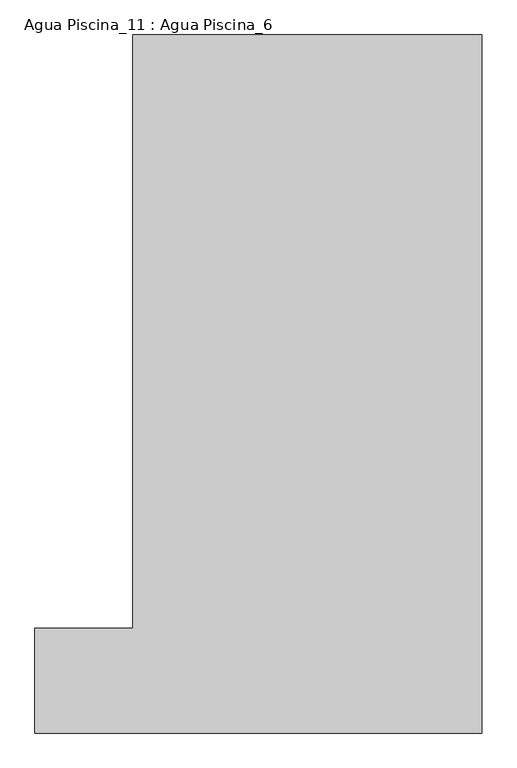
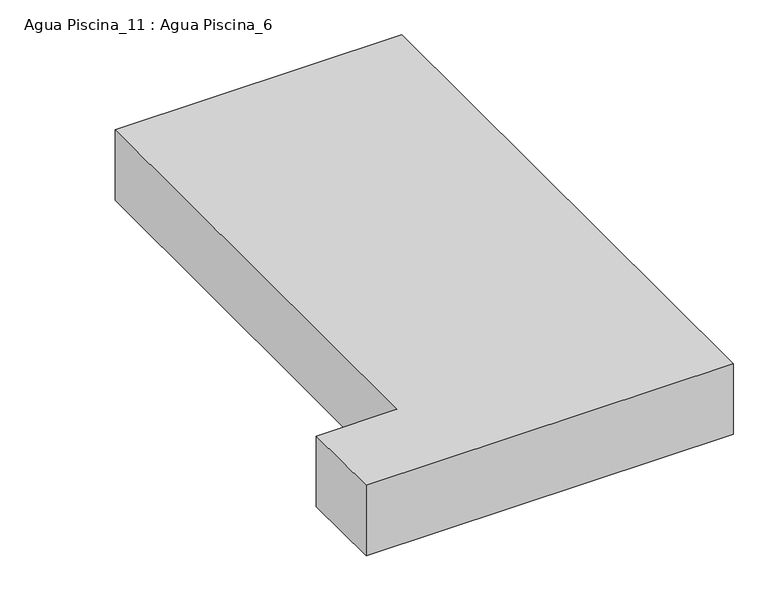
"""IFC4 building model written with IfcOpenShell, lengths in millimetres: proxy geometry, Agua Piscina_11 : Agua Piscina_6."""

import ifcopenshell
import ifcopenshell.guid

model = None  # the IFC model being written
_history = None  # IfcOwnerHistory: only IFC2X3 demands one
_inside = {}  # id of a spatial element -> (the spatial element, [elements in it])
_under = {}  # id of a project, library or spatial element -> (it, [spatial elements below it])
_declared = {}  # id of a project -> (the project, [libraries it declares])
_typed = {}  # id of a type object -> (the type object, [elements of that type])
_made_of = {}  # id of a material, layer set ... -> (it, [elements and type objects made of it])


def new_model(schema):
    """Start an empty IFC model of exactly this schema.

    Asked for "IFC4X3", IfcOpenShell would pick the latest addendum, in which some entities
    have other attributes; the version numbers below select the first issue.
    IFC2X3 requires an IfcOwnerHistory on every rooted entity: one is made here for all.
    """
    global model, _history
    if schema == "IFC4X3":
        model = ifcopenshell.file(schema_version=(4, 3, 0, 0))
    else:
        model = ifcopenshell.file(schema=schema)
    _inside.clear()
    _under.clear()
    _declared.clear()
    _typed.clear()
    _made_of.clear()
    _history = None
    if model.schema == "IFC2X3":
        org = make("IfcOrganization", Name="unknown")
        user = make(
            "IfcPersonAndOrganization",
            ThePerson=make("IfcPerson", FamilyName="unknown"),
            TheOrganization=org,
        )
        app = make(
            "IfcApplication",
            ApplicationDeveloper=org,
            Version="unknown",
            ApplicationFullName="unknown",
            ApplicationIdentifier="unknown",
        )
        _history = make(
            "IfcOwnerHistory",
            OwningUser=user,
            OwningApplication=app,
            ChangeAction="ADDED",
            CreationDate=0,
        )
    return model


def make(cls, **values):
    """One entity of the class cls with the attributes given. An attribute that is None is left unset."""
    return model.create_entity(
        cls, **{name: value for name, value in values.items() if value is not None}
    )


def rooted(cls, **values):
    """An entity with a GlobalId (a new one), such as an element, a storey or a relation."""
    return make(cls, GlobalId=ifcopenshell.guid.new(), OwnerHistory=_history, **values)


def si_unit(unit_type, name, prefix=None):
    """IfcSIUnit, for example si_unit("LENGTHUNIT", "METRE", prefix="MILLI")."""
    return make("IfcSIUnit", UnitType=unit_type, Prefix=prefix, Name=name)


def assignment(units):
    """IfcUnitAssignment: the units of a project."""
    return None if units is None else make("IfcUnitAssignment", Units=units)


def point(xyz):
    """IfcCartesianPoint."""
    return None if xyz is None else make("IfcCartesianPoint", Coordinates=xyz)


def direction(xyz):
    """IfcDirection."""
    return None if xyz is None else make("IfcDirection", DirectionRatios=xyz)


def frame(location, z_axis=None, x_axis=None):
    """IfcAxis2Placement3D, a coordinate frame: its origin and axes. An axis left out is left unset."""
    return make(
        "IfcAxis2Placement3D",
        Location=point(location),
        Axis=direction(z_axis),
        RefDirection=direction(x_axis),
    )


def origin():
    """The frame at (0, 0, 0) with its axes left unset."""
    return frame((0.0, 0.0, 0.0))


def place(relative_to, where):
    """IfcLocalPlacement: puts the frame where relative to a parent placement (None: the world)."""
    return make(
        "IfcLocalPlacement", PlacementRelTo=relative_to, RelativePlacement=where
    )


def context(
    kind, dimensions, precision=None, world=None, true_north=None, identifier=None
):
    """IfcGeometricRepresentationContext, for example the 3D "Model" context."""
    return make(
        "IfcGeometricRepresentationContext",
        ContextIdentifier=identifier,
        ContextType=kind,
        CoordinateSpaceDimension=dimensions,
        Precision=precision,
        WorldCoordinateSystem=world,
        TrueNorth=true_north,
    )


def project(units=None, contexts=None):
    """IfcProject with its units and contexts."""
    return rooted(
        "IfcProject",
        Name="project",
        RepresentationContexts=contexts,
        UnitsInContext=assignment(units),
    )


def spatial(cls, under=None, at=None, **own):
    """A site, building, storey or space (cls), placed at a placement, below another one or the project."""
    s = rooted(cls, ObjectPlacement=at, **own)
    if under is not None:
        _under.setdefault(under.id(), (under, []))[1].append(s)
    return s


def polyline(points):
    """IfcPolyline through the points."""
    return make("IfcPolyline", Points=[point(p) for p in points])


def outline(outer, holes=None, kind="AREA"):
    """IfcArbitraryClosedProfileDef: a profile drawn as a closed curve; with holes, ...WithVoids."""
    if holes is None:
        return make("IfcArbitraryClosedProfileDef", ProfileType=kind, OuterCurve=outer)
    return make(
        "IfcArbitraryProfileDefWithVoids",
        ProfileType=kind,
        OuterCurve=outer,
        InnerCurves=holes,
    )


def extrude(swept, where, along, depth):
    """IfcExtrudedAreaSolid: the profile swept, set in the frame where, extruded along a direction by depth."""
    return make(
        "IfcExtrudedAreaSolid",
        SweptArea=swept,
        Position=where,
        ExtrudedDirection=direction(along),
        Depth=depth,
    )


def shape(context_of_items, identifier, shape_type, items):
    """IfcShapeRepresentation: the items that make up one representation, for example the "Body"."""
    return make(
        "IfcShapeRepresentation",
        ContextOfItems=context_of_items,
        RepresentationIdentifier=identifier,
        RepresentationType=shape_type,
        Items=items,
    )


def source(mapping_origin, context_of_items, identifier, shape_type, items):
    """IfcRepresentationMap: a shape defined once, which mapped items show again and again."""
    return make(
        "IfcRepresentationMap",
        MappingOrigin=mapping_origin,
        MappedRepresentation=shape(context_of_items, identifier, shape_type, items),
    )


def transform(
    local_origin,
    x_axis=None,
    y_axis=None,
    z_axis=None,
    scale=None,
    scale2=None,
    scale3=None,
    uniform=True,
):
    """IfcCartesianTransformationOperator3D, or its non-uniform kind. x_axis, y_axis, z_axis: its Axis1, 2, 3."""
    if uniform:
        return make(
            "IfcCartesianTransformationOperator3D",
            Axis1=direction(x_axis),
            Axis2=direction(y_axis),
            LocalOrigin=point(local_origin),
            Scale=scale,
            Axis3=direction(z_axis),
        )
    return make(
        "IfcCartesianTransformationOperator3DnonUniform",
        Axis1=direction(x_axis),
        Axis2=direction(y_axis),
        LocalOrigin=point(local_origin),
        Scale=scale,
        Axis3=direction(z_axis),
        Scale2=scale2,
        Scale3=scale3,
    )


def mapped(mapping_source, mapping_target):
    """IfcMappedItem: shows the shape of a source again, moved by a transform."""
    return make(
        "IfcMappedItem", MappingSource=mapping_source, MappingTarget=mapping_target
    )


def made_of(thing, what):
    """Note that an element or type object is made of a material, layer set ...; save() writes the relation."""
    if what is not None:
        _made_of.setdefault(what.id(), (what, []))[1].append(thing)
    return thing


def element(
    cls,
    number,
    at=None,
    inside=None,
    cuts=None,
    type_object=None,
    material=None,
    context=None,
    identifier="Body",
    shape_type=None,
    held_by="IfcProductDefinitionShape",
    body=None,
    shapes=None,
    **own,
):
    """One element of the class cls, such as IfcWall. Its Tag is "e" and its number.

    at: its placement. inside: the storey or other place that contains it. cuts: it is an
    opening in that element (IfcRelVoidsElement). A single representation is given by context,
    identifier, shape_type and body (its items); several are given by shapes. held_by: the class
    of the entity that holds the representations. save() writes the other relations.
    """
    e = rooted(cls, Tag="e%d" % number, ObjectPlacement=at, **own)
    if body is not None:
        shapes = [shape(context, identifier, shape_type, body)]
    if shapes is not None:
        e.Representation = make(held_by, Representations=shapes)
    if inside is not None:
        _inside.setdefault(inside.id(), (inside, []))[1].append(e)
    if cuts is not None:
        rooted(
            "IfcRelVoidsElement", RelatingBuildingElement=cuts, RelatedOpeningElement=e
        )
    if type_object is not None:
        _typed.setdefault(type_object.id(), (type_object, []))[1].append(e)
    return made_of(e, material)


def aggregate(whole, parts):
    """IfcRelAggregates: a whole, such as a stair, and the parts it consists of."""
    return rooted("IfcRelAggregates", RelatingObject=whole, RelatedObjects=parts)


def save(model, path):
    """Write the relations noted so far, then the file.

    IfcRelAggregates (storeys below a building ...), IfcRelContainedInSpatialStructure (elements
    in a storey), IfcRelDefinesByType, IfcRelAssociatesMaterial and IfcRelDeclares: one each for
    every whole, place, type object, material and project.
    """
    for whole, parts in _under.values():
        aggregate(whole, parts)
    for where, things in _inside.values():
        rooted(
            "IfcRelContainedInSpatialStructure",
            RelatedElements=things,
            RelatingStructure=where,
        )
    for kind, things in _typed.values():
        rooted("IfcRelDefinesByType", RelatedObjects=things, RelatingType=kind)
    for what, things in _made_of.values():
        rooted("IfcRelAssociatesMaterial", RelatedObjects=things, RelatingMaterial=what)
    for by, libraries in _declared.values():
        rooted("IfcRelDeclares", RelatingContext=by, RelatedDefinitions=libraries)
    model.write(path)


def agua_piscina_11_agua_piscina_6_506d59ae(model_context):
    return source(origin(), model_context, "Body", "SweptSolid", [
        extrude(outline(polyline([(14210.1413301, -5538.9045912), (15330.1413301, -5538.9045912), (15330.1413301, 1261.0954088), (19330.1413301, 1261.0954088), (19330.1413301, -6738.9045912), (14210.1413301, -6738.9045912), (14210.1413301, -5538.9045912)])), frame((0.0, 0.0, 12878.9496094), z_axis=(0.0, 0.0, 1.0), x_axis=(1.0, 0.0, 0.0)), (0.0, 0.0, 1.0), 1039.9575076),
    ])


if __name__ == "__main__":
    model = new_model("IFC4")
    model_context = context("Model", 3, world=origin())
    ifc_project = project(units=[si_unit("LENGTHUNIT", "METRE", prefix="MILLI")], contexts=[model_context])
    site = spatial("IfcSite", under=ifc_project)
    building = spatial("IfcBuilding", under=site)
    placement = place(None, origin())
    agua_piscina_11_agua_piscina_6_shape = agua_piscina_11_agua_piscina_6_506d59ae(model_context)
    element("IfcBuildingElementProxy", 1, Name="Agua Piscina_11 : Agua Piscina_6", ObjectType="Agua Piscina_11 : Agua Piscina_6", at=placement, inside=building, context=model_context, shape_type="MappedRepresentation", body=[
        mapped(agua_piscina_11_agua_piscina_6_shape, transform((0.0, 0.0, 0.0), x_axis=(1.0, 0.0, 0.0), y_axis=(0.0, 1.0, 0.0), z_axis=(0.0, 0.0, 1.0))),
    ])
    save(model, "model.ifc")
